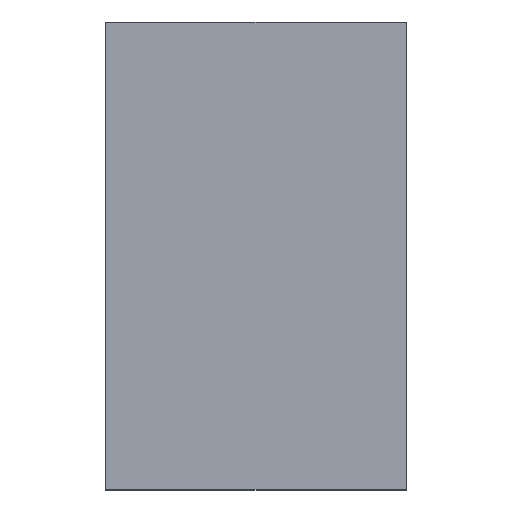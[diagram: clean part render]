
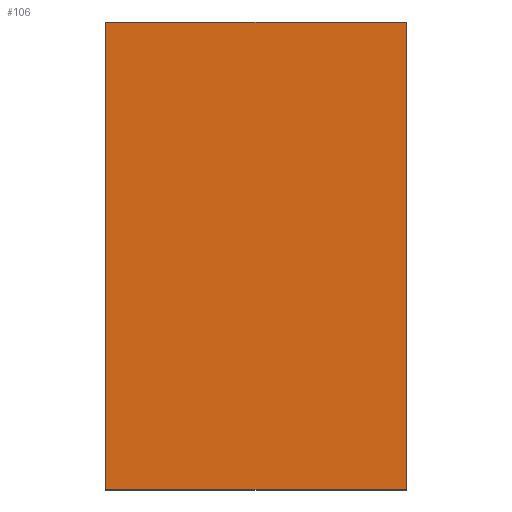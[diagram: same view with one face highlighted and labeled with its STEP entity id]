
A CAD part, top view. The second image highlights one B-rep face of the part: STEP entity #106.
In plain terms, the highlighted planar face has unit normal (0, 0, 1).
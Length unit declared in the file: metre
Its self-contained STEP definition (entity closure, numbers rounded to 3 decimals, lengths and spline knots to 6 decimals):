
#16=ORIENTED_EDGE('',*,*,#40,.T.);
#17=ORIENTED_EDGE('',*,*,#41,.T.);
#18=ORIENTED_EDGE('',*,*,#42,.T.);
#19=ORIENTED_EDGE('',*,*,#43,.T.);
#40=EDGE_CURVE('',#52,#53,#60,.T.);
#41=EDGE_CURVE('',#53,#54,#61,.T.);
#42=EDGE_CURVE('',#54,#55,#62,.T.);
#43=EDGE_CURVE('',#55,#52,#63,.T.);
#52=VERTEX_POINT('',#204);
#53=VERTEX_POINT('',#205);
#54=VERTEX_POINT('',#207);
#55=VERTEX_POINT('',#209);
#60=LINE('',#203,#72);
#61=LINE('',#206,#73);
#62=LINE('',#208,#74);
#63=LINE('',#210,#75);
#72=VECTOR('',#176,1.);
#73=VECTOR('',#177,1.);
#74=VECTOR('',#178,1.);
#75=VECTOR('',#179,1.);
#81=EDGE_LOOP('',(#16,#17,#18,#19));
#87=FACE_BOUND('',#81,.T.);
#93=PLANE('',#161);
#106=ADVANCED_FACE('',(#87),#93,.T.);
#161=AXIS2_PLACEMENT_3D('',#202,#174,#175);
#174=DIRECTION('',(0.,0.,1.));
#175=DIRECTION('',(-1.,0.,0.));
#176=DIRECTION('',(0.,-1.,0.));
#177=DIRECTION('',(1.,0.,0.));
#178=DIRECTION('',(0.,1.,0.));
#179=DIRECTION('',(-1.,0.,0.));
#202=CARTESIAN_POINT('',(-0.120184,-0.064652,0.0096));
#203=CARTESIAN_POINT('',(-0.118684,-0.065352,0.0096));
#204=CARTESIAN_POINT('',(-0.118684,-0.063952,0.0096));
#205=CARTESIAN_POINT('',(-0.118684,-0.065352,0.0096));
#206=CARTESIAN_POINT('',(-0.117784,-0.065352,0.0096));
#207=CARTESIAN_POINT('',(-0.117784,-0.065352,0.0096));
#208=CARTESIAN_POINT('',(-0.117784,-0.065352,0.0096));
#209=CARTESIAN_POINT('',(-0.117784,-0.063952,0.0096));
#210=CARTESIAN_POINT('',(-0.117784,-0.063952,0.0096));
